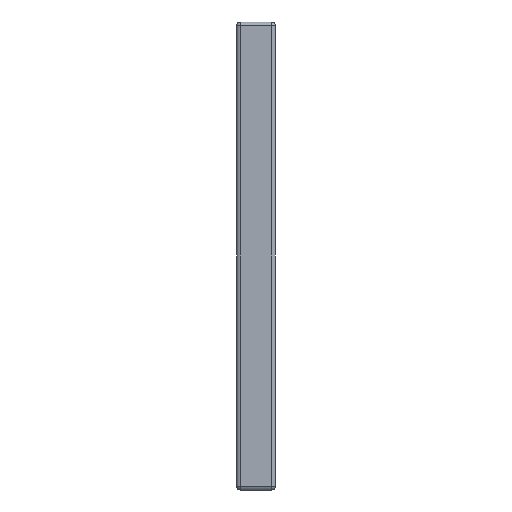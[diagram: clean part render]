
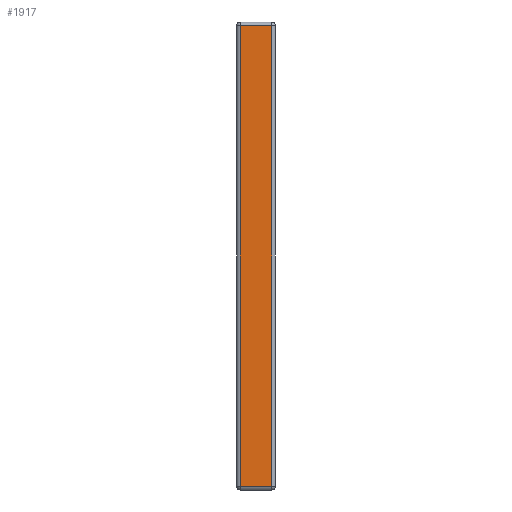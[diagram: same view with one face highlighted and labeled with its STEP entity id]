
A CAD part, left-side view. The second image highlights one B-rep face of the part: STEP entity #1917.
In plain terms, the highlighted planar face has unit normal (-1, 0, 0).
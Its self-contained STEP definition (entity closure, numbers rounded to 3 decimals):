
#1589 = FACE_OUTER_BOUND ( 'NONE', #17877, .T. ) ;
#1917 = ADVANCED_FACE ( 'NONE', ( #1589 ), #6955, .F. ) ;
#2713 = DIRECTION ( 'NONE',  ( 0., -1., 0. ) ) ;
#4092 = ORIENTED_EDGE ( 'NONE', *, *, #15081, .T. ) ;
#4147 = VECTOR ( 'NONE', #2713, 1000. ) ;
#4393 = AXIS2_PLACEMENT_3D ( 'NONE', #24484, #24396, #24316 ) ;
#5450 = CARTESIAN_POINT ( 'NONE',  ( -60., 10., -59. ) ) ;
#6396 = DIRECTION ( 'NONE',  ( 0., 1., 0. ) ) ;
#6629 = CARTESIAN_POINT ( 'NONE',  ( -60., 9., -59. ) ) ;
#6644 = CARTESIAN_POINT ( 'NONE',  ( -60., 10., 59. ) ) ;
#6955 = PLANE ( 'NONE',  #4393 ) ;
#7178 = ORIENTED_EDGE ( 'NONE', *, *, #16500, .T. ) ;
#8141 = VECTOR ( 'NONE', #10359, 1000. ) ;
#8761 = VERTEX_POINT ( 'NONE', #12624 ) ;
#9674 = DIRECTION ( 'NONE',  ( 0., 0., -1. ) ) ;
#9690 = CARTESIAN_POINT ( 'NONE',  ( -60., 9., -60. ) ) ;
#10280 = CARTESIAN_POINT ( 'NONE',  ( -60., 1., 60. ) ) ;
#10359 = DIRECTION ( 'NONE',  ( 0., 0., 1. ) ) ;
#12300 = ORIENTED_EDGE ( 'NONE', *, *, #15908, .T. ) ;
#12624 = CARTESIAN_POINT ( 'NONE',  ( -60., 1., 59. ) ) ;
#13930 = LINE ( 'NONE', #5450, #4147 ) ;
#13932 = CARTESIAN_POINT ( 'NONE',  ( -60., 1., -59. ) ) ;
#14806 = VECTOR ( 'NONE', #6396, 1000. ) ;
#15081 = EDGE_CURVE ( 'NONE', #21005, #16624, #18742, .T. ) ;
#15908 = EDGE_CURVE ( 'NONE', #16624, #24980, #13930, .T. ) ;
#16500 = EDGE_CURVE ( 'NONE', #24980, #8761, #18384, .T. ) ;
#16624 = VERTEX_POINT ( 'NONE', #6629 ) ;
#16679 = EDGE_CURVE ( 'NONE', #8761, #21005, #24794, .T. ) ;
#17796 = ORIENTED_EDGE ( 'NONE', *, *, #16679, .T. ) ;
#17877 = EDGE_LOOP ( 'NONE', ( #4092, #12300, #7178, #17796 ) ) ;
#18384 = LINE ( 'NONE', #10280, #8141 ) ;
#18742 = LINE ( 'NONE', #9690, #24869 ) ;
#20824 = CARTESIAN_POINT ( 'NONE',  ( -60., 9., 59. ) ) ;
#21005 = VERTEX_POINT ( 'NONE', #20824 ) ;
#24316 = DIRECTION ( 'NONE',  ( 0., 0., -1. ) ) ;
#24396 = DIRECTION ( 'NONE',  ( 1., 0., 0. ) ) ;
#24484 = CARTESIAN_POINT ( 'NONE',  ( -60., 10., 60. ) ) ;
#24794 = LINE ( 'NONE', #6644, #14806 ) ;
#24869 = VECTOR ( 'NONE', #9674, 1000. ) ;
#24980 = VERTEX_POINT ( 'NONE', #13932 ) ;
